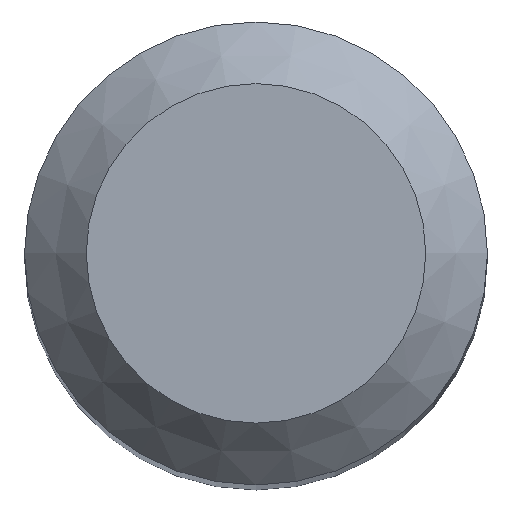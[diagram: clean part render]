
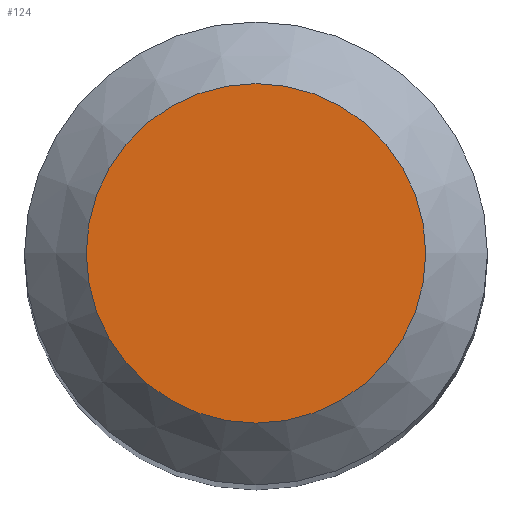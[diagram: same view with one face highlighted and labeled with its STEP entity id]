
A CAD part, top view. The second image highlights one B-rep face of the part: STEP entity #124.
In plain terms, the highlighted planar face has unit normal (0, 0, 1).
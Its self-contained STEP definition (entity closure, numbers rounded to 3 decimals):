
#108=CARTESIAN_POINT('',(2.2,0.0,53.0));
#109=DIRECTION('',(0.0,0.0,1.0));
#110=DIRECTION('',(1.0,0.0,0.0));
#111=AXIS2_PLACEMENT_3D('',#108,#109,#110);
#112=PLANE('',#111);
#113=CARTESIAN_POINT('',(-2.2,0.0,53.0));
#114=VERTEX_POINT('',#113);
#115=CARTESIAN_POINT('',(0.0,0.0,53.0));
#116=DIRECTION('',(0.0,0.0,-1.0));
#117=DIRECTION('',(-1.0,0.0,0.0));
#118=AXIS2_PLACEMENT_3D('',#115,#116,#117);
#119=CIRCLE('',#118,2.2);
#120=EDGE_CURVE('',#114,#114,#119,.T.);
#121=ORIENTED_EDGE('',*,*,#120,.F.);
#122=EDGE_LOOP('',(#121));
#123=FACE_OUTER_BOUND('',#122,.T.);
#124=ADVANCED_FACE('',(#123),#112,.T.);
